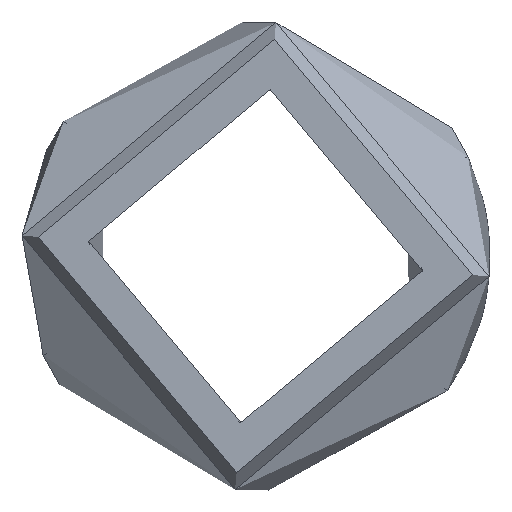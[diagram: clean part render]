
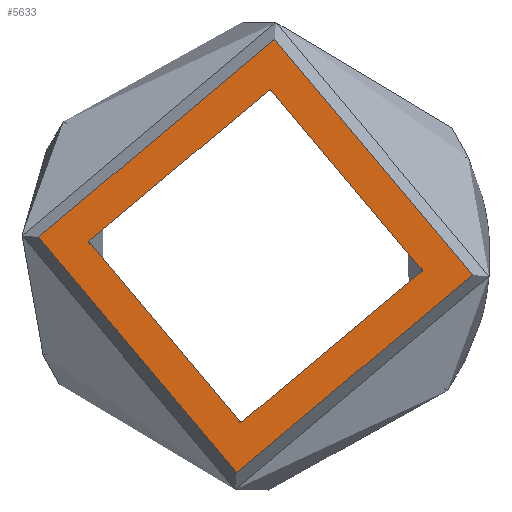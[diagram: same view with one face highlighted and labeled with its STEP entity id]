
A CAD part, left-side view. The second image highlights one B-rep face of the part: STEP entity #5633.
In plain terms, the highlighted planar face has unit normal (-1, 0, 0).
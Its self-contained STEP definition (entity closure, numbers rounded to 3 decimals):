
#124=PLANE('',#6059);
#1309=CIRCLE('',#6056,10.);
#1311=CIRCLE('',#6060,13.);
#1682=ORIENTED_EDGE('',*,*,#3383,.T.);
#1683=ORIENTED_EDGE('',*,*,#3369,.T.);
#3369=EDGE_CURVE('',#4220,#4220,#1309,.T.);
#3383=EDGE_CURVE('',#4234,#4234,#1311,.F.);
#4220=VERTEX_POINT('',#8827);
#4234=VERTEX_POINT('',#8881);
#4798=EDGE_LOOP('',(#1682));
#4799=EDGE_LOOP('',(#1683));
#5210=FACE_BOUND('',#4798,.T.);
#5211=FACE_BOUND('',#4799,.T.);
#5633=ADVANCED_FACE('',(#5210,#5211),#124,.F.);
#6056=AXIS2_PLACEMENT_3D('',#8826,#6623,#6624);
#6059=AXIS2_PLACEMENT_3D('',#8879,#6635,#6636);
#6060=AXIS2_PLACEMENT_3D('',#8880,#6637,#6638);
#6623=DIRECTION('',(1.,0.,0.));
#6624=DIRECTION('',(0.,0.087,-0.996));
#6635=DIRECTION('',(1.,0.,0.));
#6636=DIRECTION('',(0.,0.087,-0.996));
#6637=DIRECTION('',(1.,0.,0.));
#6638=DIRECTION('',(0.,0.087,-0.996));
#8826=CARTESIAN_POINT('',(-15.,0.,0.));
#8827=CARTESIAN_POINT('',(-15.,0.872,-9.962));
#8879=CARTESIAN_POINT('',(-15.,0.,0.));
#8880=CARTESIAN_POINT('',(-15.,0.,0.));
#8881=CARTESIAN_POINT('',(-15.,1.133,-12.951));
